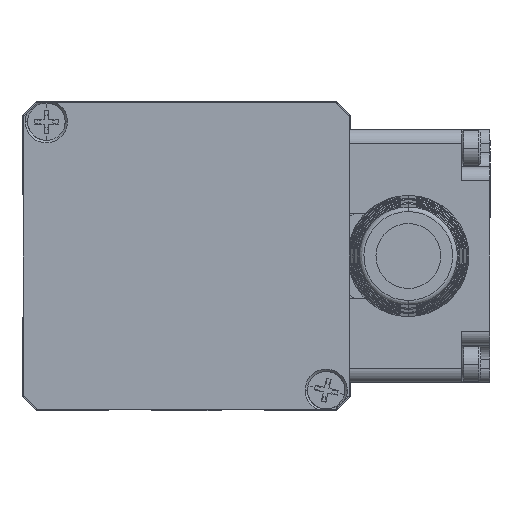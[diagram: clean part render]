
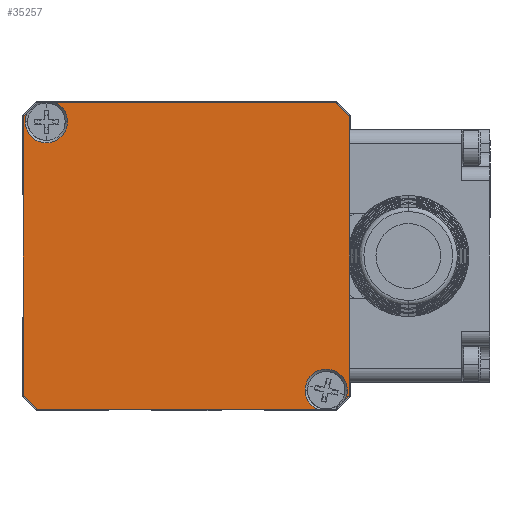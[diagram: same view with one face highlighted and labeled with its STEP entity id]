
A CAD part, front view. The second image highlights one B-rep face of the part: STEP entity #35257.
In plain terms, the highlighted planar face has unit normal (0, -1, 0).
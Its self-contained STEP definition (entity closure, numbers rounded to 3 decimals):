
#832 = EDGE_CURVE ( 'NONE', #24521, #18888, #11192, .T. ) ;
#1078 = VERTEX_POINT ( 'NONE', #7423 ) ;
#1954 = DIRECTION ( 'NONE',  ( 0., -1., 0. ) ) ;
#1973 = VECTOR ( 'NONE', #11357, 1000. ) ;
#2357 = DIRECTION ( 'NONE',  ( 0.707, 0., 0.707 ) ) ;
#2360 = ORIENTED_EDGE ( 'NONE', *, *, #5952, .F. ) ;
#2545 = EDGE_CURVE ( 'NONE', #16006, #31350, #29247, .T. ) ;
#2761 = LINE ( 'NONE', #36046, #22246 ) ;
#2954 = DIRECTION ( 'NONE',  ( -1., 0., 0. ) ) ;
#3431 = EDGE_CURVE ( 'NONE', #1078, #33105, #2761, .T. ) ;
#4175 = CARTESIAN_POINT ( 'NONE',  ( -16.93, -2.5, 16.27 ) ) ;
#5038 = VERTEX_POINT ( 'NONE', #17908 ) ;
#5138 = CARTESIAN_POINT ( 'NONE',  ( 15.85, -2.5, -15.35 ) ) ;
#5415 = ORIENTED_EDGE ( 'NONE', *, *, #6440, .F. ) ;
#5534 = CARTESIAN_POINT ( 'NONE',  ( -17.35, -2.5, -15.35 ) ) ;
#5952 = EDGE_CURVE ( 'NONE', #5038, #25772, #36800, .T. ) ;
#6095 = DIRECTION ( 'NONE',  ( -1., 0., 0. ) ) ;
#6440 = EDGE_CURVE ( 'NONE', #7927, #36995, #33155, .T. ) ;
#7032 = ORIENTED_EDGE ( 'NONE', *, *, #38117, .T. ) ;
#7058 = VECTOR ( 'NONE', #17601, 1000. ) ;
#7423 = CARTESIAN_POINT ( 'NONE',  ( -17.35, -2.5, -13.85 ) ) ;
#7675 = DIRECTION ( 'NONE',  ( 0., -1., 0. ) ) ;
#7769 = DIRECTION ( 'NONE',  ( 0., -1., 0. ) ) ;
#7927 = VERTEX_POINT ( 'NONE', #27489 ) ;
#8365 = CIRCLE ( 'NONE', #11561, 2.25 ) ;
#9122 = EDGE_CURVE ( 'NONE', #1078, #18948, #32303, .T. ) ;
#9929 = VERTEX_POINT ( 'NONE', #34979 ) ;
#10429 = EDGE_CURVE ( 'NONE', #34007, #18948, #13771, .T. ) ;
#10676 = VERTEX_POINT ( 'NONE', #12970 ) ;
#11192 = CIRCLE ( 'NONE', #26495, 2.25 ) ;
#11291 = ORIENTED_EDGE ( 'NONE', *, *, #15320, .T. ) ;
#11357 = DIRECTION ( 'NONE',  ( -0.707, 0., -0.707 ) ) ;
#11561 = AXIS2_PLACEMENT_3D ( 'NONE', #17536, #23687, #2954 ) ;
#11982 = VECTOR ( 'NONE', #23485, 1000. ) ;
#12322 = ORIENTED_EDGE ( 'NONE', *, *, #37470, .F. ) ;
#12970 = CARTESIAN_POINT ( 'NONE',  ( 16.93, -2.5, -14.27 ) ) ;
#12995 = CARTESIAN_POINT ( 'NONE',  ( -17.35, -2.5, 15.85 ) ) ;
#13585 = CARTESIAN_POINT ( 'NONE',  ( -14.9, -2.5, 15.3 ) ) ;
#13771 = LINE ( 'NONE', #25932, #1973 ) ;
#14245 = CIRCLE ( 'NONE', #15482, 2.25 ) ;
#14888 = DIRECTION ( 'NONE',  ( 0.707, 0., -0.707 ) ) ;
#15103 = CARTESIAN_POINT ( 'NONE',  ( -15.85, -2.5, -15.35 ) ) ;
#15213 = CARTESIAN_POINT ( 'NONE',  ( -13.973, -2.5, 17.35 ) ) ;
#15320 = EDGE_CURVE ( 'NONE', #10676, #25772, #20463, .T. ) ;
#15482 = AXIS2_PLACEMENT_3D ( 'NONE', #32863, #26863, #6095 ) ;
#15590 = DIRECTION ( 'NONE',  ( -1., 0., 0. ) ) ;
#15826 = ORIENTED_EDGE ( 'NONE', *, *, #17670, .F. ) ;
#15894 = DIRECTION ( 'NONE',  ( 0., 0., -1. ) ) ;
#16006 = VERTEX_POINT ( 'NONE', #15213 ) ;
#17049 = VECTOR ( 'NONE', #2357, 1000. ) ;
#17110 = DIRECTION ( 'NONE',  ( -0.707, 0., 0.707 ) ) ;
#17136 = AXIS2_PLACEMENT_3D ( 'NONE', #18576, #30776, #15590 ) ;
#17536 = CARTESIAN_POINT ( 'NONE',  ( 14.9, -2.5, -13.3 ) ) ;
#17601 = DIRECTION ( 'NONE',  ( -1., 0., 0. ) ) ;
#17670 = EDGE_CURVE ( 'NONE', #34007, #24521, #34526, .T. ) ;
#17908 = CARTESIAN_POINT ( 'NONE',  ( 17.35, -2.5, 15.85 ) ) ;
#18576 = CARTESIAN_POINT ( 'NONE',  ( 14.9, -2.5, -13.3 ) ) ;
#18832 = FACE_OUTER_BOUND ( 'NONE', #25832, .T. ) ;
#18888 = VERTEX_POINT ( 'NONE', #22315 ) ;
#18948 = VERTEX_POINT ( 'NONE', #12995 ) ;
#19078 = CARTESIAN_POINT ( 'NONE',  ( 12.65, -2.5, -13.3 ) ) ;
#19485 = EDGE_CURVE ( 'NONE', #18888, #16006, #14245, .T. ) ;
#19835 = CARTESIAN_POINT ( 'NONE',  ( -17.35, -2.5, 17.35 ) ) ;
#20439 = ORIENTED_EDGE ( 'NONE', *, *, #3431, .T. ) ;
#20463 = LINE ( 'NONE', #5138, #17049 ) ;
#21244 = CARTESIAN_POINT ( 'NONE',  ( 0., -2.5, 1. ) ) ;
#21425 = DIRECTION ( 'NONE',  ( 0., 1., 0. ) ) ;
#21630 = PLANE ( 'NONE',  #38638 ) ;
#22192 = ORIENTED_EDGE ( 'NONE', *, *, #19485, .F. ) ;
#22246 = VECTOR ( 'NONE', #14888, 1000. ) ;
#22315 = CARTESIAN_POINT ( 'NONE',  ( -12.65, -2.5, 15.3 ) ) ;
#22580 = ORIENTED_EDGE ( 'NONE', *, *, #2545, .F. ) ;
#22634 = CARTESIAN_POINT ( 'NONE',  ( -14.9, -2.5, 15.3 ) ) ;
#22679 = EDGE_CURVE ( 'NONE', #36995, #9929, #30533, .T. ) ;
#22854 = VECTOR ( 'NONE', #23060, 1000. ) ;
#23045 = VECTOR ( 'NONE', #17110, 1000. ) ;
#23060 = DIRECTION ( 'NONE',  ( 1., 0., 0. ) ) ;
#23080 = LINE ( 'NONE', #38417, #23045 ) ;
#23437 = CARTESIAN_POINT ( 'NONE',  ( 15.85, -2.5, 17.35 ) ) ;
#23485 = DIRECTION ( 'NONE',  ( 0., 0., 1. ) ) ;
#23528 = AXIS2_PLACEMENT_3D ( 'NONE', #26275, #1954, #32678 ) ;
#23649 = AXIS2_PLACEMENT_3D ( 'NONE', #13585, #7769, #26346 ) ;
#23687 = DIRECTION ( 'NONE',  ( 0., -1., 0. ) ) ;
#24521 = VERTEX_POINT ( 'NONE', #36783 ) ;
#24633 = DIRECTION ( 'NONE',  ( 1., 0., 0. ) ) ;
#24695 = ORIENTED_EDGE ( 'NONE', *, *, #832, .F. ) ;
#25331 = ORIENTED_EDGE ( 'NONE', *, *, #31053, .F. ) ;
#25772 = VERTEX_POINT ( 'NONE', #28205 ) ;
#25832 = EDGE_LOOP ( 'NONE', ( #22580, #22192, #24695, #15826, #26055, #30067, #20439, #12322, #36678, #5415, #25331, #11291, #2360, #7032 ) ) ;
#25932 = CARTESIAN_POINT ( 'NONE',  ( -15.85, -2.5, 17.35 ) ) ;
#26055 = ORIENTED_EDGE ( 'NONE', *, *, #10429, .T. ) ;
#26275 = CARTESIAN_POINT ( 'NONE',  ( 14.9, -2.5, -13.3 ) ) ;
#26346 = DIRECTION ( 'NONE',  ( -1., 0., 0. ) ) ;
#26370 = LINE ( 'NONE', #38684, #7058 ) ;
#26495 = AXIS2_PLACEMENT_3D ( 'NONE', #22634, #7675, #35411 ) ;
#26863 = DIRECTION ( 'NONE',  ( 0., -1., 0. ) ) ;
#27489 = CARTESIAN_POINT ( 'NONE',  ( 17.15, -2.5, -13.3 ) ) ;
#28205 = CARTESIAN_POINT ( 'NONE',  ( 17.35, -2.5, -13.85 ) ) ;
#29247 = LINE ( 'NONE', #19835, #22854 ) ;
#30067 = ORIENTED_EDGE ( 'NONE', *, *, #9122, .F. ) ;
#30533 = CIRCLE ( 'NONE', #23528, 2.25 ) ;
#30776 = DIRECTION ( 'NONE',  ( 0., -1., 0. ) ) ;
#31053 = EDGE_CURVE ( 'NONE', #10676, #7927, #8365, .T. ) ;
#31350 = VERTEX_POINT ( 'NONE', #23437 ) ;
#32303 = LINE ( 'NONE', #5534, #11982 ) ;
#32678 = DIRECTION ( 'NONE',  ( -1., 0., 0. ) ) ;
#32863 = CARTESIAN_POINT ( 'NONE',  ( -14.9, -2.5, 15.3 ) ) ;
#33105 = VERTEX_POINT ( 'NONE', #15103 ) ;
#33155 = CIRCLE ( 'NONE', #17136, 2.25 ) ;
#34007 = VERTEX_POINT ( 'NONE', #4175 ) ;
#34448 = CARTESIAN_POINT ( 'NONE',  ( 17.35, -2.5, -15.35 ) ) ;
#34526 = CIRCLE ( 'NONE', #23649, 2.25 ) ;
#34979 = CARTESIAN_POINT ( 'NONE',  ( 13.973, -2.5, -15.35 ) ) ;
#35257 = ADVANCED_FACE ( 'NONE', ( #18832 ), #21630, .F. ) ;
#35411 = DIRECTION ( 'NONE',  ( -1., 0., 0. ) ) ;
#36046 = CARTESIAN_POINT ( 'NONE',  ( -17.35, -2.5, -13.85 ) ) ;
#36678 = ORIENTED_EDGE ( 'NONE', *, *, #22679, .F. ) ;
#36783 = CARTESIAN_POINT ( 'NONE',  ( -17.15, -2.5, 15.3 ) ) ;
#36800 = LINE ( 'NONE', #34448, #38165 ) ;
#36995 = VERTEX_POINT ( 'NONE', #19078 ) ;
#37470 = EDGE_CURVE ( 'NONE', #9929, #33105, #26370, .T. ) ;
#38117 = EDGE_CURVE ( 'NONE', #5038, #31350, #23080, .T. ) ;
#38165 = VECTOR ( 'NONE', #15894, 1000. ) ;
#38417 = CARTESIAN_POINT ( 'NONE',  ( 17.35, -2.5, 15.85 ) ) ;
#38638 = AXIS2_PLACEMENT_3D ( 'NONE', #21244, #21425, #24633 ) ;
#38684 = CARTESIAN_POINT ( 'NONE',  ( -17.35, -2.5, -15.35 ) ) ;
